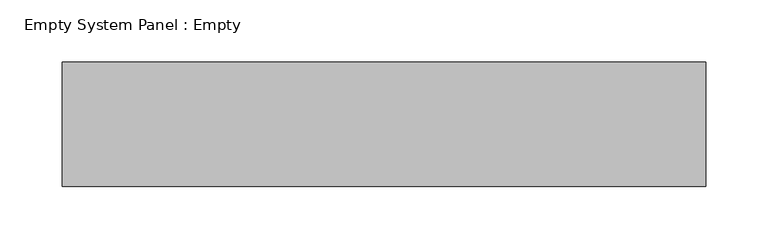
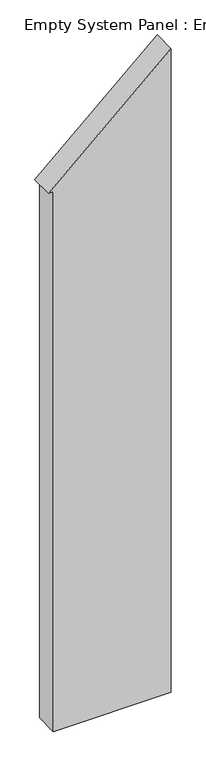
"""IFC4 building model written with IfcOpenShell, lengths in millimetres: plate geometry, Empty System Panel : Empty."""

from ifc_helpers import new_model, si_unit, frame, origin, place, context, project, spatial, polyline, outline, extrude, source, transform, mapped, element, save


def empty_system_panel_empty_26a39656(model_context):
    return source(origin(), model_context, "Body", "SweptSolid", [
        extrude(outline(polyline([(0.0, -238.7446429), (0.0, 258.7446429), (2866.866593, 258.7446429), (2403.9640958, -258.7446429), (2403.9640958, -238.7446429), (0.0, -238.7446429)])), frame((0.0, -50.0, 0.0), z_axis=(0.0, 1.0, 0.0), x_axis=(0.0, 0.0, 1.0)), (0.0, 0.0, 1.0), 100.0),
    ])


if __name__ == "__main__":
    model = new_model("IFC4")
    model_context = context("Model", 3, world=origin())
    ifc_project = project(units=[si_unit("LENGTHUNIT", "METRE", prefix="MILLI")], contexts=[model_context])
    site = spatial("IfcSite", under=ifc_project)
    building = spatial("IfcBuilding", under=site)
    placement = place(None, origin())
    empty_system_panel_empty_shape = empty_system_panel_empty_26a39656(model_context)
    element("IfcPlate", 1, ObjectType="Empty System Panel : Empty", at=placement, inside=building, context=model_context, shape_type="MappedRepresentation", body=[
        mapped(empty_system_panel_empty_shape, transform((0.0, 0.0, 0.0), x_axis=(1.0, 0.0, 0.0), y_axis=(0.0, 1.0, 0.0), z_axis=(0.0, 0.0, 1.0))),
    ])
    save(model, "model.ifc")
